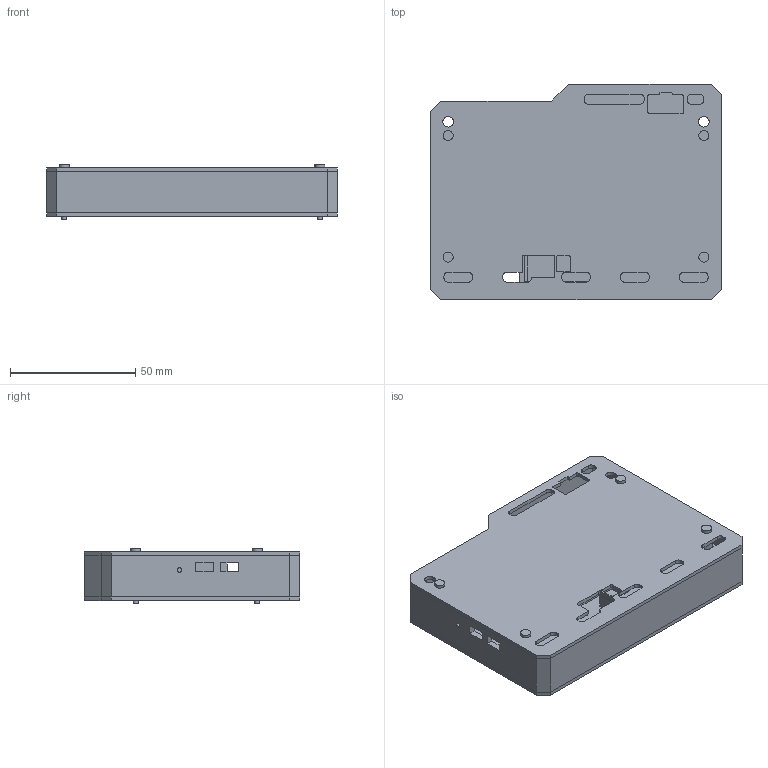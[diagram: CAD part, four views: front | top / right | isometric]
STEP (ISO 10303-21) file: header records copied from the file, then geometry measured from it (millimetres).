
FILE_DESCRIPTION(('Open CASCADE Model'),'2;1');
FILE_NAME('Layered clear enclosure','2026-11-12T07:10:08',('Author'),( 'Open CASCADE'),'Open CASCADE STEP processor 7.8','build123d', 'Unknown');
FILE_SCHEMA(('AUTOMOTIVE_DESIGN { 1 0 10303 214 1 1 1 1 }'));
Length unit declared in the file: millimetre
Products named in the file (18): Layered clear enclosure; Display support H1; Display support H2; Display support H3; Display support H4; Sensor light barrier; Stepped perimeter frame; Clear front plate; SOLID; Clear rear plate; Battery locating rails; M2 fastener H1; M2 fastener H2; M2 fastener H3; M2 fastener H4
Assembly tree (17 placements, depth 3):
  Layered clear enclosure
    Display support H1
    Display support H2
    Display support H3
    Display support H4
    Sensor light barrier
    Stepped perimeter frame
    Clear front plate
      SOLID
    Clear rear plate
      SOLID
    Battery locating rails
      SOLID
      SOLID
    M2 fastener H1
    M2 fastener H2
    M2 fastener H3
    M2 fastener H4
Bounding box: 116 x 86 x 21.7 mm (x, y, z)
Volume: 43783.7 mm3; surface area: 56151.8 mm2
Topology: 14 solids, 14 shells, 296 faces, 786 edges, 524 vertices
Faces by surface type: plane 202, cylinder 94
Full cylindrical faces by diameter (mm): 1.8 x1, 2 x4, 2.4 x16, 4 x4, 4.2 x4, 4.5 x4
Entity records: 19882 total; most frequent: CARTESIAN_POINT 4072, DIRECTION 2770, LINE 1634, VECTOR 1634, ORIENTED_EDGE 1572, PCURVE 1572, DEFINITIONAL_REPRESENTATION 1572, EDGE_CURVE 786
